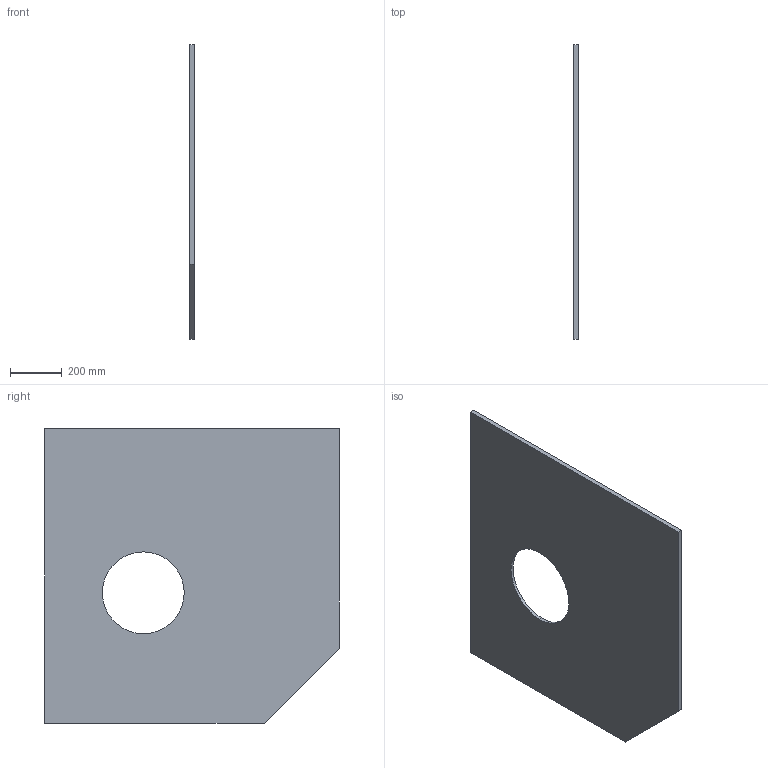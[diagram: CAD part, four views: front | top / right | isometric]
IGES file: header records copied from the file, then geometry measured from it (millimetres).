
Start section:  PTC IGES file: C:\Documents and Settings\Brad\Desktop\IGES\side_panel_r ight.igs
Global section: file name: C:\Documents and Settings\Brad\Desktop\IGES\side_panel_right.igs; native system: Brad by Parametric Technology Corporation; preprocessor: 2003250; author: Unknown; organization: PTC; date: 040521.142625; units: inch
Bounding box: 19.05 x 1143 x 1143 mm (x, y, z)
Volume: 22418572.1 mm3; surface area: 2473140.7 mm2
Topology: 1 solids, 1 shells, 12 faces, 27 edges, 18 vertices
Faces by surface type: bspline 8, revolution 4
